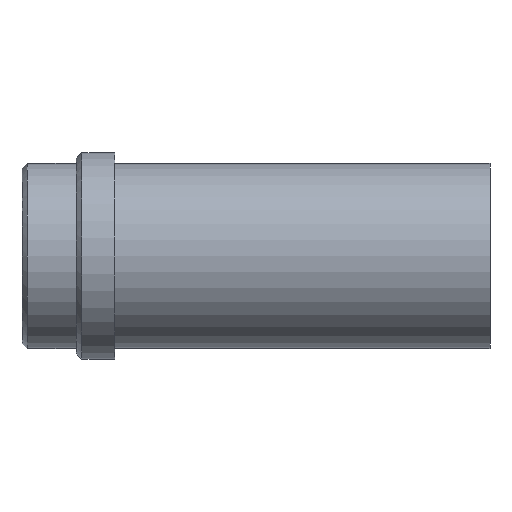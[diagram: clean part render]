
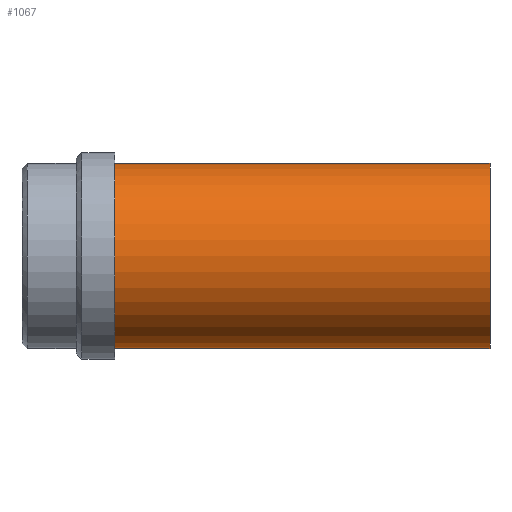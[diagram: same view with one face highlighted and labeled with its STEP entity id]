
A CAD part, front view. The second image highlights one B-rep face of the part: STEP entity #1067.
In plain terms, the highlighted cylindrical face has radius 17 mm (diameter 34 mm), a partial arc.
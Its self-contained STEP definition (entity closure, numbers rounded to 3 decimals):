
#953=CARTESIAN_POINT('Vertex',(0.,0.,-17.)) ;
#958=CARTESIAN_POINT('Axis2P3D Location',(0.,0.,0.)) ;
#962=CARTESIAN_POINT('Vertex',(0.,-17.,0.)) ;
#965=CARTESIAN_POINT('Axis2P3D Location',(0.,0.,0.)) ;
#969=CARTESIAN_POINT('Vertex',(0.,0.,17.)) ;
#995=CARTESIAN_POINT('Vertex',(69.,0.,17.)) ;
#998=CARTESIAN_POINT('Axis2P3D Location',(69.,0.,0.)) ;
#1002=CARTESIAN_POINT('Vertex',(69.,-17.,0.)) ;
#1005=CARTESIAN_POINT('Axis2P3D Location',(69.,0.,0.)) ;
#1009=CARTESIAN_POINT('Vertex',(69.,0.,-17.)) ;
#1035=CARTESIAN_POINT('Line Origine',(69.,0.,17.)) ;
#1040=CARTESIAN_POINT('Line Origine',(69.,0.,-17.)) ;
#1054=CARTESIAN_POINT('Axis2P3D Location',(69.,0.,0.)) ;
#959=DIRECTION('Axis2P3D Direction',(1.,0.,-0.)) ;
#966=DIRECTION('Axis2P3D Direction',(1.,0.,-0.)) ;
#999=DIRECTION('Axis2P3D Direction',(1.,0.,-0.)) ;
#1006=DIRECTION('Axis2P3D Direction',(1.,0.,-0.)) ;
#1036=DIRECTION('Vector Direction',(-1.,0.,0.)) ;
#1041=DIRECTION('Vector Direction',(-1.,0.,0.)) ;
#1055=DIRECTION('Axis2P3D Direction',(-1.,-0.,-0.)) ;
#1056=DIRECTION('Axis2P3D XDirection',(0.,0.,-1.)) ;
#960=AXIS2_PLACEMENT_3D('Circle Axis2P3D',#958,#959,$) ;
#967=AXIS2_PLACEMENT_3D('Circle Axis2P3D',#965,#966,$) ;
#1000=AXIS2_PLACEMENT_3D('Circle Axis2P3D',#998,#999,$) ;
#1007=AXIS2_PLACEMENT_3D('Circle Axis2P3D',#1005,#1006,$) ;
#1057=AXIS2_PLACEMENT_3D('Cylinder Axis2P3D',#1054,#1055,#1056) ;
#1060=ORIENTED_EDGE('',*,*,#1044,.T.) ;
#1061=ORIENTED_EDGE('',*,*,#1011,.F.) ;
#1062=ORIENTED_EDGE('',*,*,#1004,.F.) ;
#1063=ORIENTED_EDGE('',*,*,#1039,.T.) ;
#1064=ORIENTED_EDGE('',*,*,#971,.T.) ;
#1065=ORIENTED_EDGE('',*,*,#964,.T.) ;
#1037=VECTOR('Line Direction',#1036,1.) ;
#1042=VECTOR('Line Direction',#1041,1.) ;
#1067=ADVANCED_FACE('358-25X86',(#1066),#1058,.T.) ;
#961=CIRCLE('generated circle',#960,17.) ;
#968=CIRCLE('generated circle',#967,17.) ;
#1001=CIRCLE('generated circle',#1000,17.) ;
#1008=CIRCLE('generated circle',#1007,17.) ;
#1058=CYLINDRICAL_SURFACE('generated cylinder',#1057,17.) ;
#964=EDGE_CURVE('',#963,#954,#961,.T.) ;
#971=EDGE_CURVE('',#970,#963,#968,.T.) ;
#1004=EDGE_CURVE('',#996,#1003,#1001,.T.) ;
#1011=EDGE_CURVE('',#1003,#1010,#1008,.T.) ;
#1039=EDGE_CURVE('',#996,#970,#1038,.T.) ;
#1044=EDGE_CURVE('',#954,#1010,#1043,.F.) ;
#1059=EDGE_LOOP('',(#1060,#1061,#1062,#1063,#1064,#1065)) ;
#1066=FACE_OUTER_BOUND('',#1059,.T.) ;
#1038=LINE('Line',#1035,#1037) ;
#1043=LINE('Line',#1040,#1042) ;
#954=VERTEX_POINT('',#953) ;
#963=VERTEX_POINT('',#962) ;
#970=VERTEX_POINT('',#969) ;
#996=VERTEX_POINT('',#995) ;
#1003=VERTEX_POINT('',#1002) ;
#1010=VERTEX_POINT('',#1009) ;
